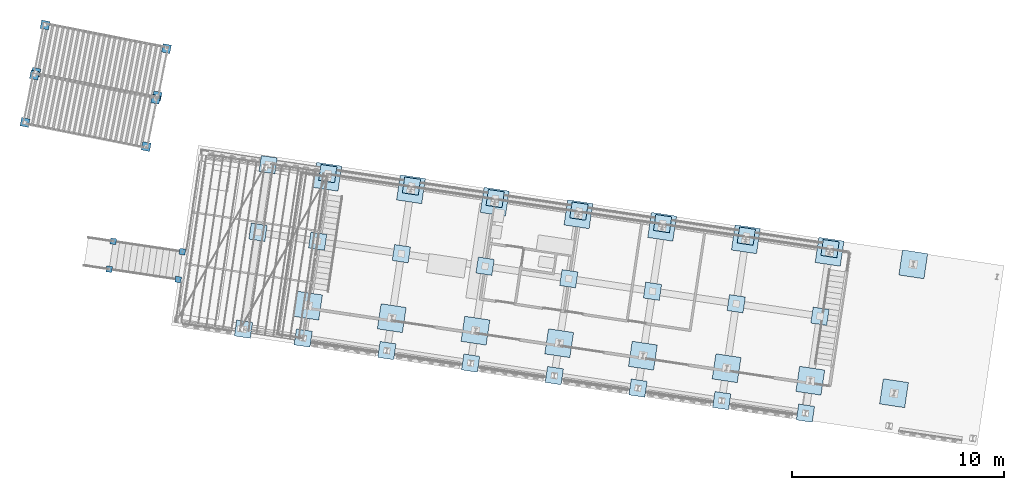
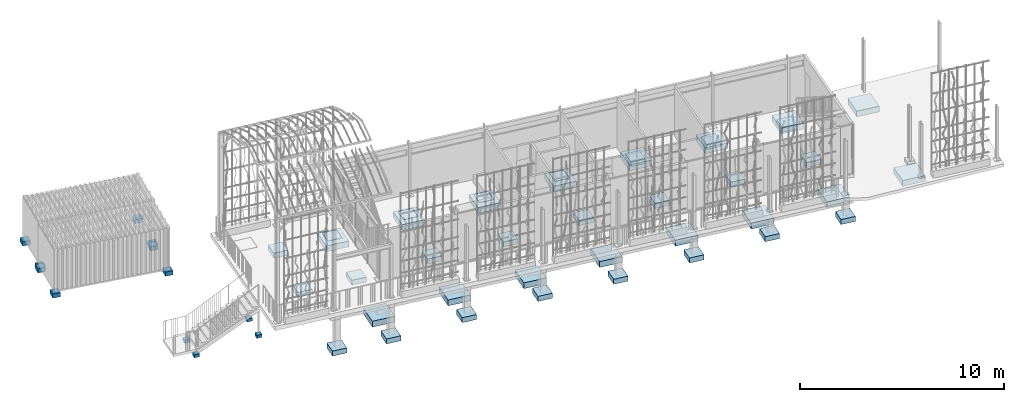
# One storey, part 1 of 142: 52 footings, 4 elements without a shape of their own.
"""IFC4 building model written with IfcOpenShell, lengths in metres."""

from ifc_helpers import new_model, si_unit, direction, frame, origin_with_axes, place, context, subcontext, project, spatial, polyline, outline, extrude, material, element, aggregate, save


model = new_model("IFC4")

# Units and contexts
model_context = context("Model", 3, precision=1e-05, world=origin_with_axes(), true_north=direction((0.0, 1.0)))
body_context = subcontext(model_context, "Body", "Model", "MODEL_VIEW")
ifc_project = project(units=[si_unit("AREAUNIT", "SQUARE_METRE"), si_unit("VOLUMEUNIT", "CUBIC_METRE"), si_unit("LENGTHUNIT", "METRE")], contexts=[model_context])

# Site, building, storey
site_placement = place(None, origin_with_axes())
site = spatial("IfcSite", under=ifc_project, at=site_placement, Name="Lares · Rua das Mercês · artigo 4771")
building_placement = place(site_placement, frame((15.0, 9.7, 14.65), z_axis=(0.0, 0.0, 1.0), x_axis=(0.989015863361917, -0.147809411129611, 0.0)))
building = spatial("IfcBuilding", under=site, at=building_placement, Name="Casa Sobreposta")
storey_placement = place(building_placement, origin_with_axes())
storey = spatial("IfcBuildingStorey", under=building, at=storey_placement, Name="00 · Habitação e estacionamento", Elevation=14.65)

# Footings
ifc_material = material(Name="Betão armado / Stahlbeton", Category="concrete")
footing_1_placement = place(storey_placement, frame((0.0, 0.0, -2.35), z_axis=(0.0, 0.0, 1.0), x_axis=(1.0, 0.0, 0.0)))
element("IfcFooting", 1, at=footing_1_placement, inside=storey, material=ifc_material, Name="Sapata 1A · hipótese", PredefinedType="PAD_FOOTING", context=body_context, shape_type="SweptSolid", body=[
    extrude(outline(polyline([(0.6, -0.48), (0.6, 0.72), (-0.6, 0.72), (-0.6, -0.48), (0.6, -0.48)])), origin_with_axes(), (0.0, 0.0, 1.0), 0.35),
])
footing_2_placement = place(storey_placement, frame((0.0, 0.0, -1.85), z_axis=(0.0, 0.0, 1.0), x_axis=(1.0, 0.0, 0.0)))
element("IfcFooting", 2, at=footing_2_placement, inside=storey, material=ifc_material, Name="Sapata 1B · hipótese", PredefinedType="PAD_FOOTING", context=body_context, shape_type="SweptSolid", body=[
    extrude(outline(polyline([(0.6, 5.68), (0.6, 6.88), (-0.6, 6.88), (-0.6, 5.68), (0.6, 5.68)])), origin_with_axes(), (0.0, 0.0, 1.0), 0.35),
])
footing_3_placement = place(storey_placement, frame((0.0, 0.0, -2.1), z_axis=(0.0, 0.0, 1.0), x_axis=(1.0, 0.0, 0.0)))
element("IfcFooting", 3, at=footing_3_placement, inside=storey, material=ifc_material, Name="Sapata 2A · hipótese", PredefinedType="PAD_FOOTING", context=body_context, shape_type="SweptSolid", body=[
    extrude(outline(polyline([(4.6, -0.48), (4.6, 0.72), (3.4, 0.72), (3.4, -0.48), (4.6, -0.48)])), origin_with_axes(), (0.0, 0.0, 1.0), 0.35),
])
footing_4_placement = place(storey_placement, frame((0.0, 0.0, -1.6), z_axis=(0.0, 0.0, 1.0), x_axis=(1.0, 0.0, 0.0)))
element("IfcFooting", 4, at=footing_4_placement, inside=storey, material=ifc_material, Name="Sapata 2B · hipótese", PredefinedType="PAD_FOOTING", context=body_context, shape_type="SweptSolid", body=[
    extrude(outline(polyline([(4.6, 5.68), (4.6, 6.88), (3.4, 6.88), (3.4, 5.68), (4.6, 5.68)])), origin_with_axes(), (0.0, 0.0, 1.0), 0.35),
])
footing_5_placement = place(storey_placement, frame((0.0, 0.0, -2.1), z_axis=(0.0, 0.0, 1.0), x_axis=(1.0, 0.0, 0.0)))
element("IfcFooting", 5, at=footing_5_placement, inside=storey, material=ifc_material, Name="Sapata 3A · hipótese", PredefinedType="PAD_FOOTING", context=body_context, shape_type="SweptSolid", body=[
    extrude(outline(polyline([(8.6, -0.48), (8.6, 0.72), (7.4, 0.72), (7.4, -0.48), (8.6, -0.48)])), origin_with_axes(), (0.0, 0.0, 1.0), 0.35),
])
footing_6_placement = place(storey_placement, frame((0.0, 0.0, -1.6), z_axis=(0.0, 0.0, 1.0), x_axis=(1.0, 0.0, 0.0)))
element("IfcFooting", 6, at=footing_6_placement, inside=storey, material=ifc_material, Name="Sapata 3B · hipótese", PredefinedType="PAD_FOOTING", context=body_context, shape_type="SweptSolid", body=[
    extrude(outline(polyline([(8.6, 5.68), (8.6, 6.88), (7.4, 6.88), (7.4, 5.68), (8.6, 5.68)])), origin_with_axes(), (0.0, 0.0, 1.0), 0.35),
])
footing_7_placement = place(storey_placement, frame((0.0, 0.0, -1.85), z_axis=(0.0, 0.0, 1.0), x_axis=(1.0, 0.0, 0.0)))
element("IfcFooting", 7, at=footing_7_placement, inside=storey, material=ifc_material, Name="Sapata 4A · hipótese", PredefinedType="PAD_FOOTING", context=body_context, shape_type="SweptSolid", body=[
    extrude(outline(polyline([(12.6, -0.48), (12.6, 0.72), (11.4, 0.72), (11.4, -0.48), (12.6, -0.48)])), origin_with_axes(), (0.0, 0.0, 1.0), 0.35),
])
footing_8_placement = place(storey_placement, frame((0.0, 0.0, -1.35), z_axis=(0.0, 0.0, 1.0), x_axis=(1.0, 0.0, 0.0)))
element("IfcFooting", 8, at=footing_8_placement, inside=storey, material=ifc_material, Name="Sapata 4B · hipótese", PredefinedType="PAD_FOOTING", context=body_context, shape_type="SweptSolid", body=[
    extrude(outline(polyline([(12.6, 5.68), (12.6, 6.88), (11.4, 6.88), (11.4, 5.68), (12.6, 5.68)])), origin_with_axes(), (0.0, 0.0, 1.0), 0.35),
])
footing_9_placement = place(storey_placement, frame((0.0, 0.0, -1.6), z_axis=(0.0, 0.0, 1.0), x_axis=(1.0, 0.0, 0.0)))
element("IfcFooting", 9, at=footing_9_placement, inside=storey, material=ifc_material, Name="Sapata 5A · hipótese", PredefinedType="PAD_FOOTING", context=body_context, shape_type="SweptSolid", body=[
    extrude(outline(polyline([(16.6, -0.48), (16.6, 0.72), (15.4, 0.72), (15.4, -0.48), (16.6, -0.48)])), origin_with_axes(), (0.0, 0.0, 1.0), 0.35),
])
footing_10_placement = place(storey_placement, frame((0.0, 0.0, -1.1), z_axis=(0.0, 0.0, 1.0), x_axis=(1.0, 0.0, 0.0)))
element("IfcFooting", 10, at=footing_10_placement, inside=storey, material=ifc_material, Name="Sapata 5B · hipótese", PredefinedType="PAD_FOOTING", context=body_context, shape_type="SweptSolid", body=[
    extrude(outline(polyline([(16.6, 5.68), (16.6, 6.88), (15.4, 6.88), (15.4, 5.68), (16.6, 5.68)])), origin_with_axes(), (0.0, 0.0, 1.0), 0.35),
])
footing_11_placement = place(storey_placement, frame((0.0, 0.0, -1.6), z_axis=(0.0, 0.0, 1.0), x_axis=(1.0, 0.0, 0.0)))
element("IfcFooting", 11, at=footing_11_placement, inside=storey, material=ifc_material, Name="Sapata 6A · hipótese", PredefinedType="PAD_FOOTING", context=body_context, shape_type="SweptSolid", body=[
    extrude(outline(polyline([(20.6, -0.48), (20.6, 0.72), (19.4, 0.72), (19.4, -0.48), (20.6, -0.48)])), origin_with_axes(), (0.0, 0.0, 1.0), 0.35),
])
footing_12_placement = place(storey_placement, frame((0.0, 0.0, -1.1), z_axis=(0.0, 0.0, 1.0), x_axis=(1.0, 0.0, 0.0)))
element("IfcFooting", 12, at=footing_12_placement, inside=storey, material=ifc_material, Name="Sapata 6B · hipótese", PredefinedType="PAD_FOOTING", context=body_context, shape_type="SweptSolid", body=[
    extrude(outline(polyline([(20.6, 5.68), (20.6, 6.88), (19.4, 6.88), (19.4, 5.68), (20.6, 5.68)])), origin_with_axes(), (0.0, 0.0, 1.0), 0.35),
])
footing_13_placement = place(storey_placement, frame((0.0, 0.0, -1.35), z_axis=(0.0, 0.0, 1.0), x_axis=(1.0, 0.0, 0.0)))
element("IfcFooting", 13, at=footing_13_placement, inside=storey, material=ifc_material, Name="Sapata 7A · hipótese", PredefinedType="PAD_FOOTING", context=body_context, shape_type="SweptSolid", body=[
    extrude(outline(polyline([(24.6, -0.48), (24.6, 0.72), (23.4, 0.72), (23.4, -0.48), (24.6, -0.48)])), origin_with_axes(), (0.0, 0.0, 1.0), 0.35),
])
footing_14_placement = place(storey_placement, frame((0.0, 0.0, -0.95), z_axis=(0.0, 0.0, 1.0), x_axis=(1.0, 0.0, 0.0)))
element("IfcFooting", 14, at=footing_14_placement, inside=storey, material=ifc_material, Name="Sapata 7B · hipótese", PredefinedType="PAD_FOOTING", context=body_context, shape_type="SweptSolid", body=[
    extrude(outline(polyline([(24.6, 5.68), (24.6, 6.88), (23.4, 6.88), (23.4, 5.68), (24.6, 5.68)])), origin_with_axes(), (0.0, 0.0, 1.0), 0.35),
])
footing_15_placement = place(storey_placement, frame((0.0, 0.0, -1.1), z_axis=(0.0, 0.0, 1.0), x_axis=(1.0, 0.0, 0.0)))
element("IfcFooting", 15, at=footing_15_placement, inside=storey, material=ifc_material, Name="Sapata 8A · hipótese", PredefinedType="PAD_FOOTING", context=body_context, shape_type="SweptSolid", body=[
    extrude(outline(polyline([(28.6, -0.48), (28.6, 0.72), (27.4, 0.72), (27.4, -0.48), (28.6, -0.48)])), origin_with_axes(), (0.0, 0.0, 1.0), 0.35),
])
footing_16_placement = place(storey_placement, frame((0.0, 0.0, -0.95), z_axis=(0.0, 0.0, 1.0), x_axis=(1.0, 0.0, 0.0)))
element("IfcFooting", 16, at=footing_16_placement, inside=storey, material=ifc_material, Name="Sapata 8B · hipótese", PredefinedType="PAD_FOOTING", context=body_context, shape_type="SweptSolid", body=[
    extrude(outline(polyline([(28.6, 5.68), (28.6, 6.88), (27.4, 6.88), (27.4, 5.68), (28.6, 5.68)])), origin_with_axes(), (0.0, 0.0, 1.0), 0.35),
])

# Stair, footings
stair_placement = place(storey_placement, origin_with_axes())
stair = element("IfcStair", 17, at=stair_placement, inside=storey, Name="Jardim · escada pela fachada poente", PredefinedType="STRAIGHT_RUN_STAIR")
footing_17_placement = place(stair_placement, frame((0.0, 0.0, -2.04767746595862), z_axis=(0.0, 0.0, 1.0), x_axis=(1.0, 0.0, 0.0)))
footing_17 = element("IfcFooting", 18, at=footing_17_placement, material=ifc_material, Name="Jardim · apoio", PredefinedType="PAD_FOOTING", context=body_context, shape_type="SweptSolid", body=[
    extrude(outline(polyline([(-6.11, 0.295), (-6.11, 0.575), (-6.39, 0.575), (-6.39, 0.295), (-6.11, 0.295)])), origin_with_axes(), (0.0, 0.0, 1.0), 0.18),
])
footing_18_placement = place(stair_placement, frame((0.0, 0.0, -2.37), z_axis=(0.0, 0.0, 1.0), x_axis=(1.0, 0.0, 0.0)))
footing_18 = element("IfcFooting", 19, at=footing_18_placement, material=ifc_material, Name="Jardim · apoio", PredefinedType="PAD_FOOTING", context=body_context, shape_type="SweptSolid", body=[
    extrude(outline(polyline([(-9.41, 0.295), (-9.41, 0.575), (-9.69, 0.575), (-9.69, 0.295), (-9.41, 0.295)])), origin_with_axes(), (0.0, 0.0, 1.0), 0.18),
])
footing_19_placement = place(stair_placement, frame((0.0, 0.0, -1.93553574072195), z_axis=(0.0, 0.0, 1.0), x_axis=(1.0, 0.0, 0.0)))
footing_19 = element("IfcFooting", 20, at=footing_19_placement, material=ifc_material, Name="Jardim · apoio", PredefinedType="PAD_FOOTING", context=body_context, shape_type="SweptSolid", body=[
    extrude(outline(polyline([(-6.11, 1.625), (-6.11, 1.905), (-6.39, 1.905), (-6.39, 1.625), (-6.11, 1.625)])), origin_with_axes(), (0.0, 0.0, 1.0), 0.18),
])
footing_20_placement = place(stair_placement, frame((0.0, 0.0, -2.37), z_axis=(0.0, 0.0, 1.0), x_axis=(1.0, 0.0, 0.0)))
footing_20 = element("IfcFooting", 21, at=footing_20_placement, material=ifc_material, Name="Jardim · apoio", PredefinedType="PAD_FOOTING", context=body_context, shape_type="SweptSolid", body=[
    extrude(outline(polyline([(-9.41, 1.625), (-9.41, 1.905), (-9.69, 1.905), (-9.69, 1.625), (-9.41, 1.625)])), origin_with_axes(), (0.0, 0.0, 1.0), 0.18),
])
aggregate(stair, [footing_17, footing_18, footing_19, footing_20])

# Assembly, footings
assembly_1_placement = place(storey_placement, origin_with_axes())
assembly_1 = element("IfcElementAssembly", 22, at=assembly_1_placement, inside=storey, Name="Pódio · terraço, casa térrea e cisterna", ObjectType="CISTERN_PODIUM", PredefinedType="USERDEFINED")
footing_21_placement = place(assembly_1_placement, frame((0.0, 0.0, -2.55), z_axis=(0.0, 0.0, 1.0), x_axis=(1.0, 0.0, 0.0)))
footing_21 = element("IfcFooting", 23, at=footing_21_placement, material=ifc_material, Name="Pódio suspenso · sapata pontual", PredefinedType="PAD_FOOTING", context=body_context, shape_type="SweptSolid", body=[
    extrude(outline(polyline([(-2.47, -1.81), (-2.47, -1.05), (-3.23, -1.05), (-3.23, -1.81), (-2.47, -1.81)])), origin_with_axes(), (0.0, 0.0, 1.0), 0.3),
])
footing_22_placement = place(assembly_1_placement, frame((0.0, 0.0, -2.05), z_axis=(0.0, 0.0, 1.0), x_axis=(1.0, 0.0, 0.0)))
footing_22 = element("IfcFooting", 24, at=footing_22_placement, material=ifc_material, Name="Pódio suspenso · sapata pontual", PredefinedType="PAD_FOOTING", context=body_context, shape_type="SweptSolid", body=[
    extrude(outline(polyline([(-2.47, 2.82), (-2.47, 3.58), (-3.23, 3.58), (-3.23, 2.82), (-2.47, 2.82)])), origin_with_axes(), (0.0, 0.0, 1.0), 0.3),
])
footing_23_placement = place(assembly_1_placement, frame((0.0, 0.0, -1.8), z_axis=(0.0, 0.0, 1.0), x_axis=(1.0, 0.0, 0.0)))
footing_23 = element("IfcFooting", 25, at=footing_23_placement, material=ifc_material, Name="Pódio suspenso · sapata pontual", PredefinedType="PAD_FOOTING", context=body_context, shape_type="SweptSolid", body=[
    extrude(outline(polyline([(-2.47, 6.05), (-2.47, 6.81), (-3.23, 6.81), (-3.23, 6.05), (-2.47, 6.05)])), origin_with_axes(), (0.0, 0.0, 1.0), 0.3),
])
footing_24_placement = place(assembly_1_placement, frame((0.0, 0.0, -2.55), z_axis=(0.0, 0.0, 1.0), x_axis=(1.0, 0.0, 0.0)))
footing_24 = element("IfcFooting", 26, at=footing_24_placement, material=ifc_material, Name="Pódio suspenso · sapata pontual", PredefinedType="PAD_FOOTING", context=body_context, shape_type="SweptSolid", body=[
    extrude(outline(polyline([(0.38, -1.81), (0.38, -1.05), (-0.38, -1.05), (-0.38, -1.81), (0.38, -1.81)])), origin_with_axes(), (0.0, 0.0, 1.0), 0.3),
])
footing_25_placement = place(assembly_1_placement, frame((0.0, 0.0, -2.05), z_axis=(0.0, 0.0, 1.0), x_axis=(1.0, 0.0, 0.0)))
footing_25 = element("IfcFooting", 27, at=footing_25_placement, material=ifc_material, Name="Pódio suspenso · sapata pontual", PredefinedType="PAD_FOOTING", context=body_context, shape_type="SweptSolid", body=[
    extrude(outline(polyline([(0.38, 2.82), (0.38, 3.58), (-0.38, 3.58), (-0.38, 2.82), (0.38, 2.82)])), origin_with_axes(), (0.0, 0.0, 1.0), 0.3),
])
footing_26_placement = place(assembly_1_placement, frame((0.0, 0.0, -1.8), z_axis=(0.0, 0.0, 1.0), x_axis=(1.0, 0.0, 0.0)))
footing_26 = element("IfcFooting", 28, at=footing_26_placement, material=ifc_material, Name="Pódio suspenso · sapata pontual", PredefinedType="PAD_FOOTING", context=body_context, shape_type="SweptSolid", body=[
    extrude(outline(polyline([(0.38, 6.05), (0.38, 6.81), (-0.38, 6.81), (-0.38, 6.05), (0.38, 6.05)])), origin_with_axes(), (0.0, 0.0, 1.0), 0.3),
])
footing_27_placement = place(assembly_1_placement, frame((0.0, 0.0, -2.3), z_axis=(0.0, 0.0, 1.0), x_axis=(1.0, 0.0, 0.0)))
footing_27 = element("IfcFooting", 29, at=footing_27_placement, material=ifc_material, Name="Pódio suspenso · sapata pontual", PredefinedType="PAD_FOOTING", context=body_context, shape_type="SweptSolid", body=[
    extrude(outline(polyline([(4.38, -1.81), (4.38, -1.05), (3.62, -1.05), (3.62, -1.81), (4.38, -1.81)])), origin_with_axes(), (0.0, 0.0, 1.0), 0.3),
])
footing_28_placement = place(assembly_1_placement, frame((0.0, 0.0, -1.8), z_axis=(0.0, 0.0, 1.0), x_axis=(1.0, 0.0, 0.0)))
footing_28 = element("IfcFooting", 30, at=footing_28_placement, material=ifc_material, Name="Pódio suspenso · sapata pontual", PredefinedType="PAD_FOOTING", context=body_context, shape_type="SweptSolid", body=[
    extrude(outline(polyline([(4.38, 2.82), (4.38, 3.58), (3.62, 3.58), (3.62, 2.82), (4.38, 2.82)])), origin_with_axes(), (0.0, 0.0, 1.0), 0.3),
])
footing_29_placement = place(assembly_1_placement, frame((0.0, 0.0, -1.55), z_axis=(0.0, 0.0, 1.0), x_axis=(1.0, 0.0, 0.0)))
footing_29 = element("IfcFooting", 31, at=footing_29_placement, material=ifc_material, Name="Pódio suspenso · sapata pontual", PredefinedType="PAD_FOOTING", context=body_context, shape_type="SweptSolid", body=[
    extrude(outline(polyline([(4.38, 6.05), (4.38, 6.81), (3.62, 6.81), (3.62, 6.05), (4.38, 6.05)])), origin_with_axes(), (0.0, 0.0, 1.0), 0.3),
])
footing_30_placement = place(assembly_1_placement, frame((0.0, 0.0, -2.05), z_axis=(0.0, 0.0, 1.0), x_axis=(1.0, 0.0, 0.0)))
footing_30 = element("IfcFooting", 32, at=footing_30_placement, material=ifc_material, Name="Pódio suspenso · sapata pontual", PredefinedType="PAD_FOOTING", context=body_context, shape_type="SweptSolid", body=[
    extrude(outline(polyline([(8.38, -1.81), (8.38, -1.05), (7.62, -1.05), (7.62, -1.81), (8.38, -1.81)])), origin_with_axes(), (0.0, 0.0, 1.0), 0.3),
])
footing_31_placement = place(assembly_1_placement, frame((0.0, 0.0, -1.8), z_axis=(0.0, 0.0, 1.0), x_axis=(1.0, 0.0, 0.0)))
footing_31 = element("IfcFooting", 33, at=footing_31_placement, material=ifc_material, Name="Pódio suspenso · sapata pontual", PredefinedType="PAD_FOOTING", context=body_context, shape_type="SweptSolid", body=[
    extrude(outline(polyline([(8.38, 2.82), (8.38, 3.58), (7.62, 3.58), (7.62, 2.82), (8.38, 2.82)])), origin_with_axes(), (0.0, 0.0, 1.0), 0.3),
])
footing_32_placement = place(assembly_1_placement, frame((0.0, 0.0, -1.55), z_axis=(0.0, 0.0, 1.0), x_axis=(1.0, 0.0, 0.0)))
footing_32 = element("IfcFooting", 34, at=footing_32_placement, material=ifc_material, Name="Pódio suspenso · sapata pontual", PredefinedType="PAD_FOOTING", context=body_context, shape_type="SweptSolid", body=[
    extrude(outline(polyline([(8.38, 6.05), (8.38, 6.81), (7.62, 6.81), (7.62, 6.05), (8.38, 6.05)])), origin_with_axes(), (0.0, 0.0, 1.0), 0.3),
])
footing_33_placement = place(assembly_1_placement, frame((0.0, 0.0, -2.05), z_axis=(0.0, 0.0, 1.0), x_axis=(1.0, 0.0, 0.0)))
footing_33 = element("IfcFooting", 35, at=footing_33_placement, material=ifc_material, Name="Pódio suspenso · sapata pontual", PredefinedType="PAD_FOOTING", context=body_context, shape_type="SweptSolid", body=[
    extrude(outline(polyline([(12.38, -1.81), (12.38, -1.05), (11.62, -1.05), (11.62, -1.81), (12.38, -1.81)])), origin_with_axes(), (0.0, 0.0, 1.0), 0.3),
])
footing_34_placement = place(assembly_1_placement, frame((0.0, 0.0, -1.55), z_axis=(0.0, 0.0, 1.0), x_axis=(1.0, 0.0, 0.0)))
footing_34 = element("IfcFooting", 36, at=footing_34_placement, material=ifc_material, Name="Pódio suspenso · sapata pontual", PredefinedType="PAD_FOOTING", context=body_context, shape_type="SweptSolid", body=[
    extrude(outline(polyline([(12.38, 2.82), (12.38, 3.58), (11.62, 3.58), (11.62, 2.82), (12.38, 2.82)])), origin_with_axes(), (0.0, 0.0, 1.0), 0.3),
])
footing_35_placement = place(assembly_1_placement, frame((0.0, 0.0, -1.3), z_axis=(0.0, 0.0, 1.0), x_axis=(1.0, 0.0, 0.0)))
footing_35 = element("IfcFooting", 37, at=footing_35_placement, material=ifc_material, Name="Pódio suspenso · sapata pontual", PredefinedType="PAD_FOOTING", context=body_context, shape_type="SweptSolid", body=[
    extrude(outline(polyline([(12.38, 6.05), (12.38, 6.81), (11.62, 6.81), (11.62, 6.05), (12.38, 6.05)])), origin_with_axes(), (0.0, 0.0, 1.0), 0.3),
])
footing_36_placement = place(assembly_1_placement, frame((0.0, 0.0, -1.8), z_axis=(0.0, 0.0, 1.0), x_axis=(1.0, 0.0, 0.0)))
footing_36 = element("IfcFooting", 38, at=footing_36_placement, material=ifc_material, Name="Pódio suspenso · sapata pontual", PredefinedType="PAD_FOOTING", context=body_context, shape_type="SweptSolid", body=[
    extrude(outline(polyline([(16.38, -1.81), (16.38, -1.05), (15.62, -1.05), (15.62, -1.81), (16.38, -1.81)])), origin_with_axes(), (0.0, 0.0, 1.0), 0.3),
])
footing_37_placement = place(assembly_1_placement, frame((0.0, 0.0, -1.55), z_axis=(0.0, 0.0, 1.0), x_axis=(1.0, 0.0, 0.0)))
footing_37 = element("IfcFooting", 39, at=footing_37_placement, material=ifc_material, Name="Pódio suspenso · sapata pontual", PredefinedType="PAD_FOOTING", context=body_context, shape_type="SweptSolid", body=[
    extrude(outline(polyline([(16.38, 2.82), (16.38, 3.58), (15.62, 3.58), (15.62, 2.82), (16.38, 2.82)])), origin_with_axes(), (0.0, 0.0, 1.0), 0.3),
])
footing_38_placement = place(assembly_1_placement, frame((0.0, 0.0, -1.15), z_axis=(0.0, 0.0, 1.0), x_axis=(1.0, 0.0, 0.0)))
footing_38 = element("IfcFooting", 40, at=footing_38_placement, material=ifc_material, Name="Pódio suspenso · sapata pontual", PredefinedType="PAD_FOOTING", context=body_context, shape_type="SweptSolid", body=[
    extrude(outline(polyline([(16.38, 6.05), (16.38, 6.81), (15.62, 6.81), (15.62, 6.05), (16.38, 6.05)])), origin_with_axes(), (0.0, 0.0, 1.0), 0.3),
])
footing_39_placement = place(assembly_1_placement, frame((0.0, 0.0, -1.55), z_axis=(0.0, 0.0, 1.0), x_axis=(1.0, 0.0, 0.0)))
footing_39 = element("IfcFooting", 41, at=footing_39_placement, material=ifc_material, Name="Pódio suspenso · sapata pontual", PredefinedType="PAD_FOOTING", context=body_context, shape_type="SweptSolid", body=[
    extrude(outline(polyline([(20.38, -1.81), (20.38, -1.05), (19.62, -1.05), (19.62, -1.81), (20.38, -1.81)])), origin_with_axes(), (0.0, 0.0, 1.0), 0.3),
])
footing_40_placement = place(assembly_1_placement, frame((0.0, 0.0, -1.3), z_axis=(0.0, 0.0, 1.0), x_axis=(1.0, 0.0, 0.0)))
footing_40 = element("IfcFooting", 42, at=footing_40_placement, material=ifc_material, Name="Pódio suspenso · sapata pontual", PredefinedType="PAD_FOOTING", context=body_context, shape_type="SweptSolid", body=[
    extrude(outline(polyline([(20.38, 2.82), (20.38, 3.58), (19.62, 3.58), (19.62, 2.82), (20.38, 2.82)])), origin_with_axes(), (0.0, 0.0, 1.0), 0.3),
])
footing_41_placement = place(assembly_1_placement, frame((0.0, 0.0, -1.15), z_axis=(0.0, 0.0, 1.0), x_axis=(1.0, 0.0, 0.0)))
footing_41 = element("IfcFooting", 43, at=footing_41_placement, material=ifc_material, Name="Pódio suspenso · sapata pontual", PredefinedType="PAD_FOOTING", context=body_context, shape_type="SweptSolid", body=[
    extrude(outline(polyline([(20.38, 6.05), (20.38, 6.81), (19.62, 6.81), (19.62, 6.05), (20.38, 6.05)])), origin_with_axes(), (0.0, 0.0, 1.0), 0.3),
])
footing_42_placement = place(assembly_1_placement, frame((0.0, 0.0, -1.55), z_axis=(0.0, 0.0, 1.0), x_axis=(1.0, 0.0, 0.0)))
footing_42 = element("IfcFooting", 44, at=footing_42_placement, material=ifc_material, Name="Pódio suspenso · sapata pontual", PredefinedType="PAD_FOOTING", context=body_context, shape_type="SweptSolid", body=[
    extrude(outline(polyline([(24.38, -1.81), (24.38, -1.05), (23.62, -1.05), (23.62, -1.81), (24.38, -1.81)])), origin_with_axes(), (0.0, 0.0, 1.0), 0.3),
])
footing_43_placement = place(assembly_1_placement, frame((0.0, 0.0, -1.15), z_axis=(0.0, 0.0, 1.0), x_axis=(1.0, 0.0, 0.0)))
footing_43 = element("IfcFooting", 45, at=footing_43_placement, material=ifc_material, Name="Pódio suspenso · sapata pontual", PredefinedType="PAD_FOOTING", context=body_context, shape_type="SweptSolid", body=[
    extrude(outline(polyline([(24.38, 2.82), (24.38, 3.58), (23.62, 3.58), (23.62, 2.82), (24.38, 2.82)])), origin_with_axes(), (0.0, 0.0, 1.0), 0.3),
])
footing_44_placement = place(assembly_1_placement, frame((0.0, 0.0, -1.15), z_axis=(0.0, 0.0, 1.0), x_axis=(1.0, 0.0, 0.0)))
footing_44 = element("IfcFooting", 46, at=footing_44_placement, material=ifc_material, Name="Pódio suspenso · sapata pontual", PredefinedType="PAD_FOOTING", context=body_context, shape_type="SweptSolid", body=[
    extrude(outline(polyline([(24.38, 6.05), (24.38, 6.81), (23.62, 6.81), (23.62, 6.05), (24.38, 6.05)])), origin_with_axes(), (0.0, 0.0, 1.0), 0.3),
])
aggregate(assembly_1, [footing_21, footing_22, footing_23, footing_24, footing_25, footing_26, footing_27, footing_28, footing_29, footing_30, footing_31, footing_32, footing_33, footing_34, footing_35, footing_36, footing_37, footing_38, footing_39, footing_40, footing_41, footing_42, footing_43, footing_44])

assembly_2_placement = place(storey_placement, frame((-14.4335953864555, 9.04888612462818, 0.0), z_axis=(0.0, 0.0, 1.0), x_axis=(0.999032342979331, -0.0439815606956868, 0.0)))
assembly_2 = element("IfcElementAssembly", 47, at=assembly_2_placement, inside=storey, Name="Contentor existente 1 · 6 m", ObjectType="EXISTING_SHIPPING_CONTAINER", PredefinedType="USERDEFINED")
footing_45_placement = place(assembly_2_placement, frame((0.0, 0.0, -1.55), z_axis=(0.0, 0.0, 1.0), x_axis=(1.0, 0.0, 0.0)))
footing_45 = element("IfcFooting", 48, at=footing_45_placement, material=ifc_material, Name="Contentor · bloco de apoio nivelado", PredefinedType="PAD_FOOTING", context=body_context, shape_type="SweptSolid", body=[
    extrude(outline(polyline([(0.28, -0.12), (0.28, 0.28), (-0.12, 0.28), (-0.12, -0.12), (0.28, -0.12)])), origin_with_axes(), (0.0, 0.0, 1.0), 0.25),
])
footing_46_placement = place(assembly_2_placement, frame((0.0, 0.0, -1.55), z_axis=(0.0, 0.0, 1.0), x_axis=(1.0, 0.0, 0.0)))
footing_46 = element("IfcFooting", 49, at=footing_46_placement, material=ifc_material, Name="Contentor · bloco de apoio nivelado", PredefinedType="PAD_FOOTING", context=body_context, shape_type="SweptSolid", body=[
    extrude(outline(polyline([(0.28, 2.16), (0.28, 2.56), (-0.12, 2.56), (-0.12, 2.16), (0.28, 2.16)])), origin_with_axes(), (0.0, 0.0, 1.0), 0.25),
])
footing_47_placement = place(assembly_2_placement, frame((0.0, 0.0, -1.55), z_axis=(0.0, 0.0, 1.0), x_axis=(1.0, 0.0, 0.0)))
footing_47 = element("IfcFooting", 50, at=footing_47_placement, material=ifc_material, Name="Contentor · bloco de apoio nivelado", PredefinedType="PAD_FOOTING", context=body_context, shape_type="SweptSolid", body=[
    extrude(outline(polyline([(6.12, -0.12), (6.12, 0.28), (5.72, 0.28), (5.72, -0.12), (6.12, -0.12)])), origin_with_axes(), (0.0, 0.0, 1.0), 0.25),
])
footing_48_placement = place(assembly_2_placement, frame((0.0, 0.0, -1.55), z_axis=(0.0, 0.0, 1.0), x_axis=(1.0, 0.0, 0.0)))
footing_48 = element("IfcFooting", 51, at=footing_48_placement, material=ifc_material, Name="Contentor · bloco de apoio nivelado", PredefinedType="PAD_FOOTING", context=body_context, shape_type="SweptSolid", body=[
    extrude(outline(polyline([(6.12, 2.16), (6.12, 2.56), (5.72, 2.56), (5.72, 2.16), (6.12, 2.16)])), origin_with_axes(), (0.0, 0.0, 1.0), 0.25),
])
aggregate(assembly_2, [footing_45, footing_46, footing_47, footing_48])

assembly_3_placement = place(storey_placement, frame((-14.5932944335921, 6.63122214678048, 0.0), z_axis=(0.0, 0.0, 1.0), x_axis=(0.998832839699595, -0.0483007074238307, 0.0)))
assembly_3 = element("IfcElementAssembly", 52, at=assembly_3_placement, inside=storey, Name="Contentor existente 2 · 6 m", ObjectType="EXISTING_SHIPPING_CONTAINER", PredefinedType="USERDEFINED")
footing_49_placement = place(assembly_3_placement, frame((0.0, 0.0, -1.55), z_axis=(0.0, 0.0, 1.0), x_axis=(1.0, 0.0, 0.0)))
footing_49 = element("IfcFooting", 53, at=footing_49_placement, material=ifc_material, Name="Contentor · bloco de apoio nivelado", PredefinedType="PAD_FOOTING", context=body_context, shape_type="SweptSolid", body=[
    extrude(outline(polyline([(0.28, -0.12), (0.28, 0.28), (-0.12, 0.28), (-0.12, -0.12), (0.28, -0.12)])), origin_with_axes(), (0.0, 0.0, 1.0), 0.25),
])
footing_50_placement = place(assembly_3_placement, frame((0.0, 0.0, -1.55), z_axis=(0.0, 0.0, 1.0), x_axis=(1.0, 0.0, 0.0)))
footing_50 = element("IfcFooting", 54, at=footing_50_placement, material=ifc_material, Name="Contentor · bloco de apoio nivelado", PredefinedType="PAD_FOOTING", context=body_context, shape_type="SweptSolid", body=[
    extrude(outline(polyline([(0.28, 2.16), (0.28, 2.56), (-0.12, 2.56), (-0.12, 2.16), (0.28, 2.16)])), origin_with_axes(), (0.0, 0.0, 1.0), 0.25),
])
footing_51_placement = place(assembly_3_placement, frame((0.0, 0.0, -1.55), z_axis=(0.0, 0.0, 1.0), x_axis=(1.0, 0.0, 0.0)))
footing_51 = element("IfcFooting", 55, at=footing_51_placement, material=ifc_material, Name="Contentor · bloco de apoio nivelado", PredefinedType="PAD_FOOTING", context=body_context, shape_type="SweptSolid", body=[
    extrude(outline(polyline([(6.12, -0.12), (6.12, 0.28), (5.72, 0.28), (5.72, -0.12), (6.12, -0.12)])), origin_with_axes(), (0.0, 0.0, 1.0), 0.25),
])
footing_52_placement = place(assembly_3_placement, frame((0.0, 0.0, -1.55), z_axis=(0.0, 0.0, 1.0), x_axis=(1.0, 0.0, 0.0)))
footing_52 = element("IfcFooting", 56, at=footing_52_placement, material=ifc_material, Name="Contentor · bloco de apoio nivelado", PredefinedType="PAD_FOOTING", context=body_context, shape_type="SweptSolid", body=[
    extrude(outline(polyline([(6.12, 2.16), (6.12, 2.56), (5.72, 2.56), (5.72, 2.16), (6.12, 2.16)])), origin_with_axes(), (0.0, 0.0, 1.0), 0.25),
])
aggregate(assembly_3, [footing_49, footing_50, footing_51, footing_52])

save(model, "model.ifc")
